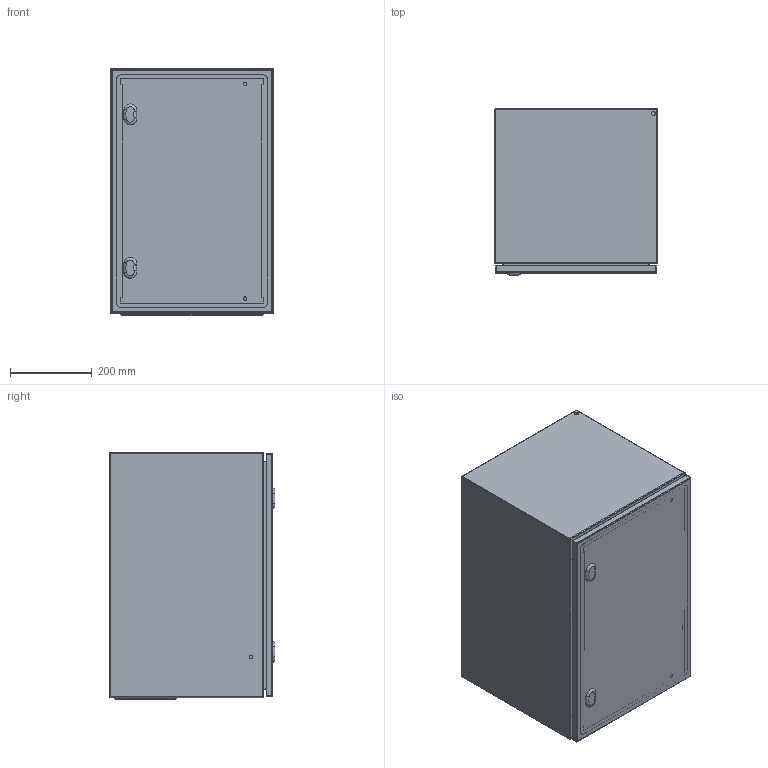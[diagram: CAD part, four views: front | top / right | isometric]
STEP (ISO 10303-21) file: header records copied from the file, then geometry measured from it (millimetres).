
FILE_DESCRIPTION(/* description */ ('STEP AP214'),/* implementation_level */ '2;1');
FILE_NAME(/* name */ 'EC040640-LOD400',/* time_stamp */ '2025-07-31T13:26:49+02:00',/* author */ ('License CC BY-ND 4.0'),/* organization */ ('CADENAS'),/* preprocessor_version */ 'ST-DEVELOPER v19.3',/* originating_system */ 'PARTsolutions',/* authorisation */ ' ');
FILE_SCHEMA (('AUTOMOTIVE_DESIGN {1 0 10303 214 3 1 1}'));
Length unit declared in the file: millimetre
Products named in the file (5): EC040640-LOD400; EC040640-LOD400_cabinet; EC040640-LOD400_door; EC040640-LOD400_bottom_plate; EC040640-LOD400_inner_plate
Assembly tree (4 placements, depth 2):
  EC040640-LOD400
    EC040640-LOD400_cabinet
    EC040640-LOD400_door
    EC040640-LOD400_bottom_plate
    EC040640-LOD400_inner_plate
Bounding box: 400 x 405 x 604 mm (x, y, z)
Volume: 2574864.4 mm3; surface area: 3159330 mm2
Topology: 4 solids, 4 shells, 522 faces, 1256 edges, 818 vertices
Faces by surface type: cylinder 220, plane 208, torus 48, cone 46
Full cylindrical faces by diameter (mm): 1 x48, 4.5 x46, 5 x4, 5.5 x4, 6 x4, 7 x4, 8 x12, 10 x10, 14 x4
Entity records: 14347 total; most frequent: DIRECTION 2638, CARTESIAN_POINT 2303, ORIENTED_EDGE 2028, AXIS2_PLACEMENT_3D 1097, EDGE_CURVE 1014, EDGE_LOOP 938, FACE_BOUND 938, VERTEX_POINT 762
